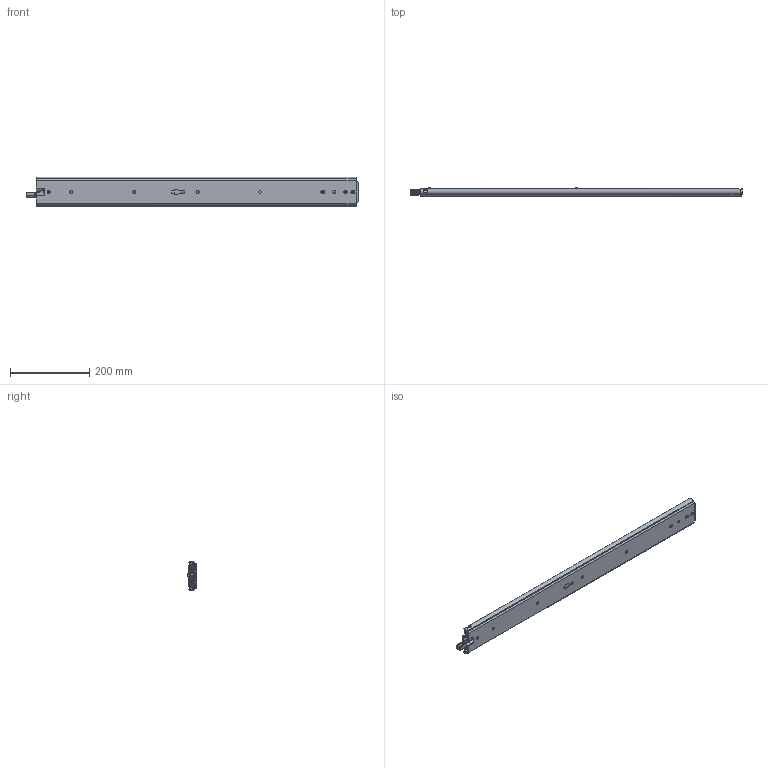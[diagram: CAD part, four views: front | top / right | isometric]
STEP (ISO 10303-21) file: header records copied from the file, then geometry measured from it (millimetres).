
FILE_DESCRIPTION((''),'2;1');
FILE_NAME('DG-76-3S-32ZUO_ASM','2023-05-10T',('jishu015'),(''),'PRO/ENGINEER BY PARAMETRIC TECHNOLOGY CORPORATION, 2010280','PRO/ENGINEER BY PARAMETRIC TECHNOLOGY CORPORATION, 2010280','');
FILE_SCHEMA(('CONFIG_CONTROL_DESIGN'));
Products named in the file (29): KP-76-04WAIKE-1816______; 1076-WAIKEZIDANJIAO16______; WAIK16_______ASM; 1076XIAOZHUTIAO-22516______; 16______; 1076XIAOZHUTIAO-17516_______ASM; KP-76-04ZHONGGUI1816______; 76CHANGGUIZHONGGUIJIAO16______; 3X6WODIN16______; ZHONGGUIBAIKOU16______; PJ-76-30_____; PJ-76-03_____; 76-XIAOZHUJIA-11_____; GANGZHU-XIAO_____; ZHUJIA-XIAO______ASM; ZHONGGUI6_______ASM; KP-76-04NEIGUI1816______; PJ-76-31_____; DAOGPIAN16______; 1053-3SBANJ01_____; JIAO-11_____; 76XINSUOKOU_____; PJ-338_____; PJ-356_____; PJ-357_____; PJ-336_____; M4X4_____; NEIGUI16_______ASM; DG-76-3S-32ZUO_ASM
Assembly tree (70 placements, depth 4):
  DG-76-3S-32ZUO_ASM
    WAIK16_______ASM
      KP-76-04WAIKE-1816______
      1076-WAIKEZIDANJIAO16______  x2
    1076XIAOZHUTIAO-17516_______ASM  x2
      1076XIAOZHUTIAO-22516______
      16______
    ZHONGGUI6_______ASM
      KP-76-04ZHONGGUI1816______
      76CHANGGUIZHONGGUIJIAO16______
      3X6WODIN16______
      ZHONGGUIBAIKOU16______
      PJ-76-30_____
      PJ-76-03_____
      ZHUJIA-XIAO______ASM
        76-XIAOZHUJIA-11_____
        GANGZHU-XIAO_____  x28
    NEIGUI16_______ASM
      KP-76-04NEIGUI1816______
      PJ-76-31_____
      DAOGPIAN16______
      1053-3SBANJ01_____
      JIAO-11_____
      76XINSUOKOU_____
      PJ-338_____
      PJ-356_____
      PJ-357_____
      PJ-336_____
      M4X4_____
Bounding box: 838.72 x 20.7 x 75.3 mm (x, y, z)
Volume: 534497.6 mm3; surface area: 514840.3 mm2
Topology: 80 solids, 80 shells, 2081 faces, 6250 edges, 3964 vertices
Faces by surface type: plane 1071, cylinder 764, sphere 119, bspline 60, cone 28, extrusion 23, torus 16
Entity records: 68262 total; most frequent: CARTESIAN_POINT 18458, ORIENTED_EDGE 10832, DIRECTION 9907, EDGE_CURVE 5416, VERTEX_POINT 3528, AXIS2_PLACEMENT_3D 3406, VECTOR 3095, LINE 3072
